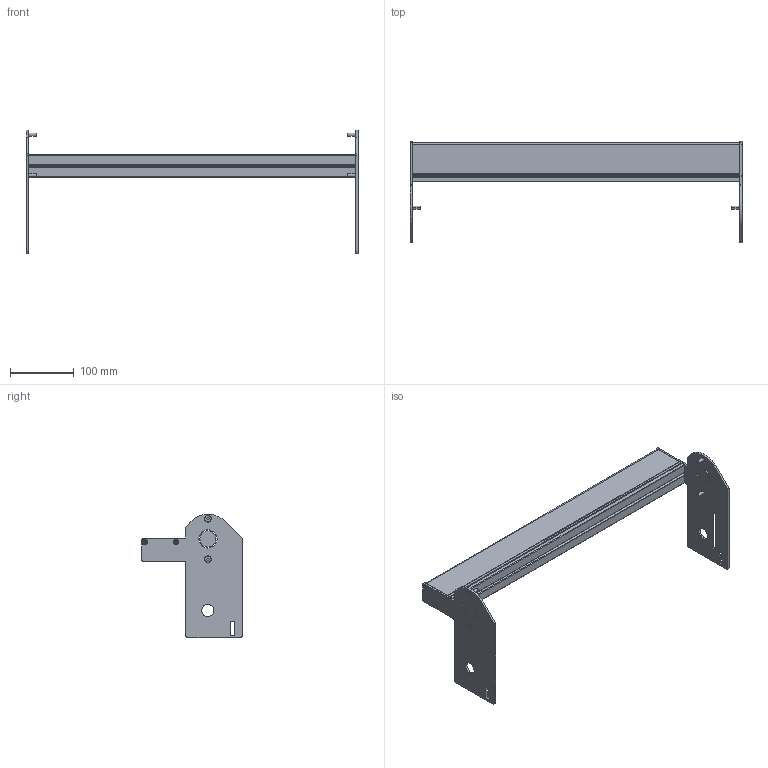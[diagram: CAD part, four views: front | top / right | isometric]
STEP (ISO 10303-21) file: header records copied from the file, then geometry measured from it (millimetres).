
FILE_DESCRIPTION((''),'2;1');
FILE_NAME('350712-20_ASM','2023-03-22T',('jenni.wallner'),(''),'PRO/ENGINEER BY PARAMETRIC TECHNOLOGY CORPORATION, 2012420','PRO/ENGINEER BY PARAMETRIC TECHNOLOGY CORPORATION, 2012420','');
FILE_SCHEMA(('CONFIG_CONTROL_DESIGN'));
Length unit declared in the file: inch
Products named in the file (6): 350669-20; 350667; 350668; 930412M; 930516M; 350712-20_ASM
Assembly tree (11 placements, depth 2):
  350712-20_ASM
    350669-20
    350667
    350668
    930412M  x4
    930516M  x4
Bounding box: 520.34 x 158.09 x 193.27 mm (x, y, z)
Volume: 518706 mm3; surface area: 340671.3 mm2
Topology: 11 solids, 11 shells, 334 faces, 872 edges, 568 vertices
Faces by surface type: plane 150, cylinder 136, cone 48
Entity records: 7773 total; most frequent: DIRECTION 1398, CARTESIAN_POINT 1317, ORIENTED_EDGE 1288, EDGE_CURVE 644, AXIS2_PLACEMENT_3D 505, VERTEX_POINT 424, VECTOR 388, LINE 388
